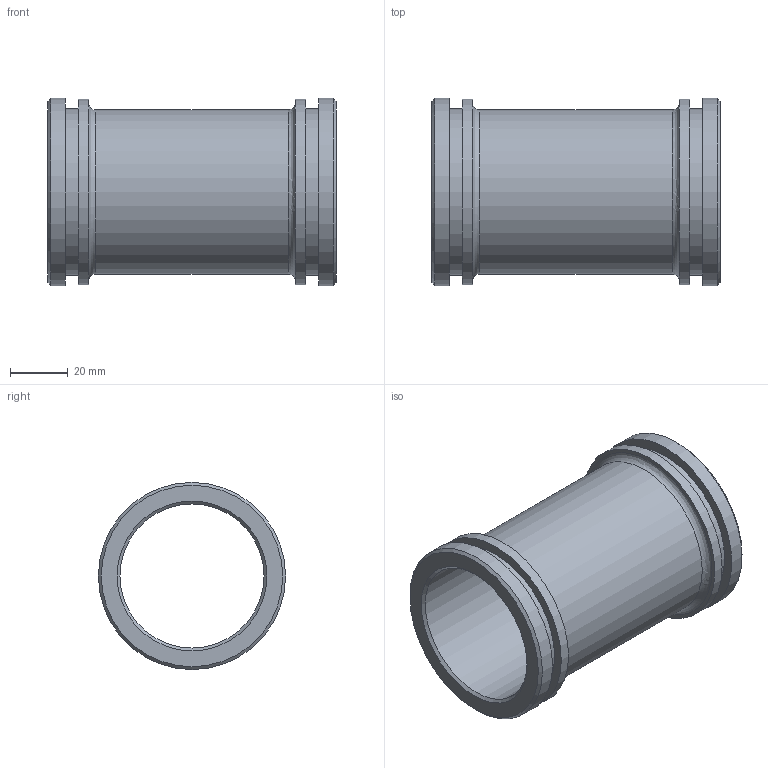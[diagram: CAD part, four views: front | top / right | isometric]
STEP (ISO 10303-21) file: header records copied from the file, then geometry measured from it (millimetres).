
FILE_DESCRIPTION((''),'2;1');
FILE_NAME('N:\CAD\ARCHIV\5350 (-999)\Standardhülsen\5350.050.100\Kundenteil 3D\5350.050.100 für Kunden.stp','2008-08-27T15:08:53',('hwalkhoff'),(''),'Autodesk Inventor 11','Autodesk Inventor 11','');
FILE_SCHEMA(('AUTOMOTIVE_DESIGN { 1 0 10303 214 1 1 1 1 }'));
Length unit declared in the file: millimetre
Products named in the file (1): Hülse für Kunden
Bounding box: 100 x 65 x 65 mm (x, y, z)
Volume: 73991.3 mm3; surface area: 40090.3 mm2
Topology: 1 solids, 1 shells, 22 faces, 36 edges, 22 vertices
Faces by surface type: cylinder 8, plane 8, cone 4, bspline 2
Full cylindrical faces by diameter (mm): 50 x1, 57 x1, 57.94 x2, 64.5 x2, 65 x2
Entity records: 551 total; most frequent: CARTESIAN_POINT 155, DIRECTION 86, ORIENTED_EDGE 44, EDGE_LOOP 44, AXIS2_PLACEMENT_3D 43, VERTEX_POINT 22, CIRCLE 22, EDGE_CURVE 22
